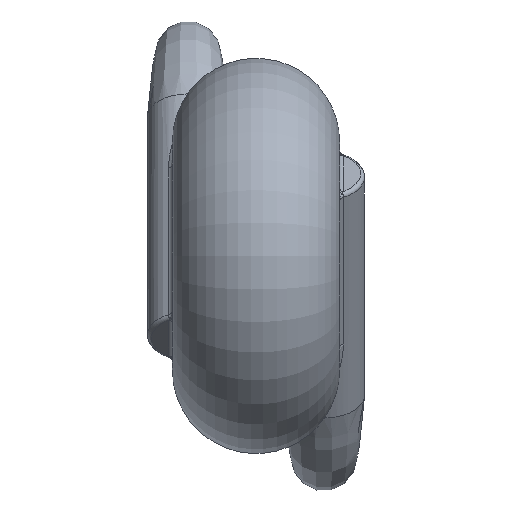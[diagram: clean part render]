
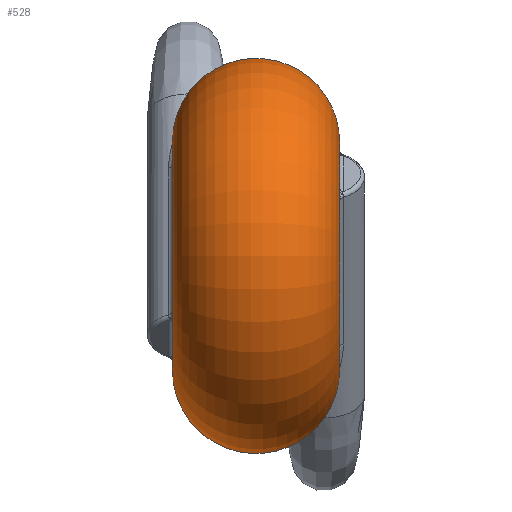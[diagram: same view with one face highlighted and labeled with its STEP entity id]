
A CAD part, left-side view. The second image highlights one B-rep face of the part: STEP entity #528.
In plain terms, the highlighted toroidal (fillet/blend) face has major radius 2.945 mm and minor radius 2.155 mm.
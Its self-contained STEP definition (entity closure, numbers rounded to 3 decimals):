
#20=TOROIDAL_SURFACE('',#582,2.945,2.155);
#77=B_SPLINE_CURVE_WITH_KNOTS('',3,(#1624,#1625,#1626,#1627,#1628,#1629,
#1630,#1631,#1632,#1633,#1634,#1635,#1636,#1637,#1638),.UNSPECIFIED.,.F.,
 .F.,(4,1,1,1,1,1,1,1,1,1,1,1,4),(-0.837,-0.777,
-0.717,-0.598,-0.478,-0.418,
-0.359,-0.299,-0.239,-0.179,
-0.12,-0.06,0.),.UNSPECIFIED.);
#78=B_SPLINE_CURVE_WITH_KNOTS('',3,(#1644,#1645,#1646,#1647,#1648,#1649,
#1650,#1651,#1652,#1653,#1654,#1655,#1656,#1657,#1658,#1659),
 .UNSPECIFIED.,.F.,.F.,(4,1,1,1,1,1,1,1,1,1,1,1,1,4),(-0.837,
-0.777,-0.717,-0.598,-0.478,
-0.418,-0.359,-0.344,-0.299,
-0.239,-0.179,-0.12,-0.06,
0.),.UNSPECIFIED.);
#95=FACE_BOUND('',#167,.T.);
#125=FACE_OUTER_BOUND('',#166,.T.);
#166=EDGE_LOOP('',(#417,#418));
#167=EDGE_LOOP('',(#419,#420));
#205=CIRCLE('',#583,2.945);
#206=CIRCLE('',#584,2.945);
#245=VERTEX_POINT('',#1544);
#246=VERTEX_POINT('',#1622);
#247=VERTEX_POINT('',#1642);
#248=VERTEX_POINT('',#1643);
#308=EDGE_CURVE('',#246,#245,#77,.T.);
#310=EDGE_CURVE('',#247,#248,#78,.T.);
#311=EDGE_CURVE('',#247,#248,#205,.T.);
#312=EDGE_CURVE('',#246,#245,#206,.T.);
#417=ORIENTED_EDGE('',*,*,#310,.T.);
#418=ORIENTED_EDGE('',*,*,#311,.F.);
#419=ORIENTED_EDGE('',*,*,#308,.T.);
#420=ORIENTED_EDGE('',*,*,#312,.F.);
#528=ADVANCED_FACE('',(#125,#95),#20,.T.);
#582=AXIS2_PLACEMENT_3D('',#1641,#693,#694);
#583=AXIS2_PLACEMENT_3D('',#1660,#695,#696);
#584=AXIS2_PLACEMENT_3D('',#1661,#697,#698);
#693=DIRECTION('center_axis',(0.,1.,0.));
#694=DIRECTION('ref_axis',(1.,0.,0.));
#695=DIRECTION('center_axis',(0.,-1.,0.));
#696=DIRECTION('ref_axis',(-1.,0.,0.));
#697=DIRECTION('center_axis',(0.,1.,0.));
#698=DIRECTION('ref_axis',(-1.,0.,0.));
#1544=CARTESIAN_POINT('',(1.748,3.5,2.37));
#1622=CARTESIAN_POINT('',(2.934,3.5,0.25));
#1624=CARTESIAN_POINT('Ctrl Pts',(2.934,3.5,0.25));
#1625=CARTESIAN_POINT('Ctrl Pts',(3.038,3.5,0.412));
#1626=CARTESIAN_POINT('Ctrl Pts',(3.253,3.48,0.727));
#1627=CARTESIAN_POINT('Ctrl Pts',(3.72,3.311,1.288));
#1628=CARTESIAN_POINT('Ctrl Pts',(4.261,2.8,1.869));
#1629=CARTESIAN_POINT('Ctrl Pts',(4.3,2.097,2.557));
#1630=CARTESIAN_POINT('Ctrl Pts',(3.939,1.792,3.183));
#1631=CARTESIAN_POINT('Ctrl Pts',(3.541,1.793,3.621));
#1632=CARTESIAN_POINT('Ctrl Pts',(3.101,2.058,3.919));
#1633=CARTESIAN_POINT('Ctrl Pts',(2.729,2.5,3.939));
#1634=CARTESIAN_POINT('Ctrl Pts',(2.463,2.927,3.697));
#1635=CARTESIAN_POINT('Ctrl Pts',(2.252,3.252,3.303));
#1636=CARTESIAN_POINT('Ctrl Pts',(2.036,3.453,2.836));
#1637=CARTESIAN_POINT('Ctrl Pts',(1.852,3.5,2.52));
#1638=CARTESIAN_POINT('Ctrl Pts',(1.748,3.5,2.37));
#1641=CARTESIAN_POINT('Origin',(0.,1.345,0.));
#1642=CARTESIAN_POINT('',(2.934,-0.81,-0.25));
#1643=CARTESIAN_POINT('',(1.748,-0.81,-2.37));
#1644=CARTESIAN_POINT('Ctrl Pts',(2.934,-0.81,-0.25));
#1645=CARTESIAN_POINT('Ctrl Pts',(3.038,-0.81,-0.412));
#1646=CARTESIAN_POINT('Ctrl Pts',(3.253,-0.791,-0.726));
#1647=CARTESIAN_POINT('Ctrl Pts',(3.72,-0.621,-1.288));
#1648=CARTESIAN_POINT('Ctrl Pts',(4.263,-0.112,-1.868));
#1649=CARTESIAN_POINT('Ctrl Pts',(4.299,0.594,-2.557));
#1650=CARTESIAN_POINT('Ctrl Pts',(3.939,0.898,-3.183));
#1651=CARTESIAN_POINT('Ctrl Pts',(3.64,0.897,-3.512));
#1652=CARTESIAN_POINT('Ctrl Pts',(3.357,0.787,-3.745));
#1653=CARTESIAN_POINT('Ctrl Pts',(3.07,0.595,-3.92));
#1654=CARTESIAN_POINT('Ctrl Pts',(2.729,0.19,-3.939));
#1655=CARTESIAN_POINT('Ctrl Pts',(2.463,-0.237,-3.697));
#1656=CARTESIAN_POINT('Ctrl Pts',(2.252,-0.562,-3.303));
#1657=CARTESIAN_POINT('Ctrl Pts',(2.036,-0.763,-2.836));
#1658=CARTESIAN_POINT('Ctrl Pts',(1.852,-0.81,-2.52));
#1659=CARTESIAN_POINT('Ctrl Pts',(1.748,-0.81,-2.37));
#1660=CARTESIAN_POINT('Origin',(0.,-0.81,0.));
#1661=CARTESIAN_POINT('Origin',(0.,3.5,0.));
